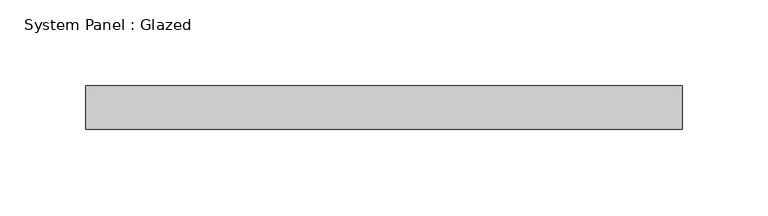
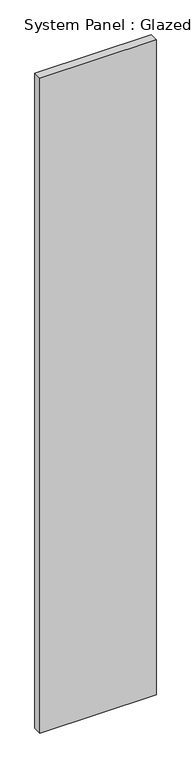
"""IFC4 building model written with IfcOpenShell, lengths in millimetres: plate geometry, System Panel : Glazed."""

from ifc_helpers import new_model, si_unit, origin, origin_with_axes, place, context, project, spatial, polyline, outline, extrude, source, transform, mapped, element, save


def system_panel_glazed_ef26b6ac(model_context):
    return source(origin(), model_context, "Body", "SweptSolid", [
        extrude(outline(polyline([(173.7178571, 19.05), (-173.7178571, 19.05), (-173.7178571, 44.45), (173.7178571, 44.45), (173.7178571, 19.05)])), origin_with_axes(), (0.0, 0.0, 1.0), 2070.1),
    ])


if __name__ == "__main__":
    model = new_model("IFC4")
    model_context = context("Model", 3, world=origin())
    ifc_project = project(units=[si_unit("LENGTHUNIT", "METRE", prefix="MILLI")], contexts=[model_context])
    site = spatial("IfcSite", under=ifc_project)
    building = spatial("IfcBuilding", under=site)
    placement = place(None, origin())
    system_panel_glazed_shape = system_panel_glazed_ef26b6ac(model_context)
    element("IfcPlate", 1, ObjectType="System Panel : Glazed", at=placement, inside=building, context=model_context, shape_type="MappedRepresentation", body=[
        mapped(system_panel_glazed_shape, transform((0.0, 0.0, 0.0), x_axis=(1.0, 0.0, 0.0), y_axis=(0.0, 1.0, 0.0), z_axis=(0.0, 0.0, 1.0))),
    ])
    save(model, "model.ifc")
